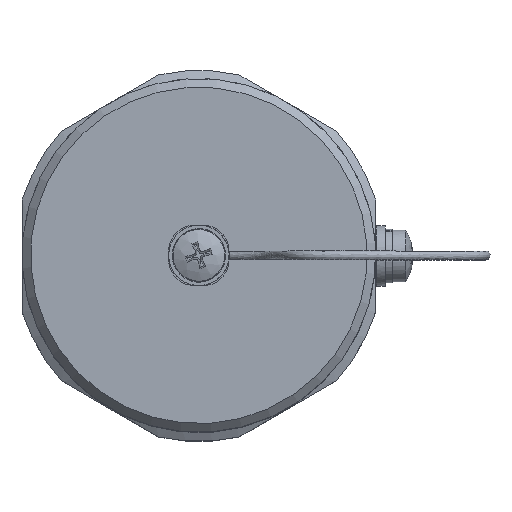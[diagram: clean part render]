
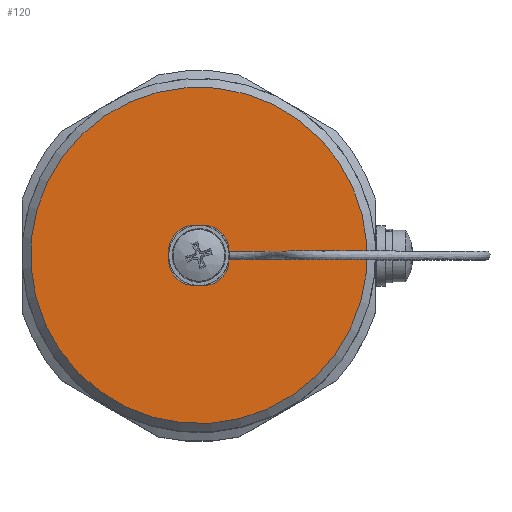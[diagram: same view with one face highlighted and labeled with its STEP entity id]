
A CAD part, top view. The second image highlights one B-rep face of the part: STEP entity #120.
In plain terms, the highlighted planar face has unit normal (0, 0, 1).
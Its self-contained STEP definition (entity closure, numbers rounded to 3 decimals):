
#48 = CARTESIAN_POINT ( 'NONE',  ( 0., 0., 43. ) ) ;
#63 = DIRECTION ( 'NONE',  ( 0., 0., 1. ) ) ;
#120 = ADVANCED_FACE ( 'NONE', ( #4910, #3878 ), #4182, .T. ) ;
#158 = LINE ( 'NONE', #1160, #3739 ) ;
#159 = CARTESIAN_POINT ( 'NONE',  ( -0.5, -0.5, 43. ) ) ;
#219 = CARTESIAN_POINT ( 'NONE',  ( 3.5, 0.5, 43. ) ) ;
#238 = VERTEX_POINT ( 'NONE', #2337 ) ;
#263 = AXIS2_PLACEMENT_3D ( 'NONE', #2252, #4239, #1474 ) ;
#267 = CARTESIAN_POINT ( 'NONE',  ( 0.5, -3.5, 43. ) ) ;
#280 = ORIENTED_EDGE ( 'NONE', *, *, #3254, .T. ) ;
#350 = DIRECTION ( 'NONE',  ( 0., 1., 0. ) ) ;
#373 = B_SPLINE_CURVE_WITH_KNOTS ( 'NONE', 3,
 ( #3767, #3782, #4208, #1067, #4986, #5003, #4964, #2203, #1825, #3838, #3360, #1437, #1860, #1408, #1480, #4145, #2253, #219 ),
 .UNSPECIFIED., .F., .F.,
 ( 4, 2, 2, 2, 2, 2, 2, 2, 4 ),
 ( 0., 0., 0.001, 0.001, 0.001, 0.001, 0.002, 0.002, 0.002 ),
 .UNSPECIFIED. ) ;
#601 = EDGE_CURVE ( 'NONE', #3549, #3258, #158, .T. ) ;
#612 = CIRCLE ( 'NONE', #4428, 3. ) ;
#666 = EDGE_CURVE ( 'NONE', #238, #3258, #4955, .T. ) ;
#679 = AXIS2_PLACEMENT_3D ( 'NONE', #159, #3365, #3342 ) ;
#746 = CARTESIAN_POINT ( 'NONE',  ( -3.5, -0.5, 43. ) ) ;
#758 = ORIENTED_EDGE ( 'NONE', *, *, #1744, .F. ) ;
#787 = VECTOR ( 'NONE', #1299, 1000. ) ;
#823 = DIRECTION ( 'NONE',  ( 0., 0., -1. ) ) ;
#1026 = ORIENTED_EDGE ( 'NONE', *, *, #4844, .F. ) ;
#1067 = CARTESIAN_POINT ( 'NONE',  ( 3.847, -0.456, 43. ) ) ;
#1121 = CARTESIAN_POINT ( 'NONE',  ( 3.5, -0.5, 43. ) ) ;
#1160 = CARTESIAN_POINT ( 'NONE',  ( -3.5, 0., 43. ) ) ;
#1222 = CARTESIAN_POINT ( 'NONE',  ( 0.5, 0.5, 43. ) ) ;
#1299 = DIRECTION ( 'NONE',  ( -1., 0., 0. ) ) ;
#1408 = CARTESIAN_POINT ( 'NONE',  ( 3.933, 0.428, 43. ) ) ;
#1437 = CARTESIAN_POINT ( 'NONE',  ( 4.167, 0.303, 43. ) ) ;
#1474 = DIRECTION ( 'NONE',  ( 0.438, 0.899, 0. ) ) ;
#1480 = CARTESIAN_POINT ( 'NONE',  ( 3.848, 0.455, 43. ) ) ;
#1550 = CIRCLE ( 'NONE', #3377, 19.5 ) ;
#1555 = CARTESIAN_POINT ( 'NONE',  ( 0.5, 3.5, 43. ) ) ;
#1583 = EDGE_CURVE ( 'NONE', #2197, #3467, #612, .T. ) ;
#1636 = LINE ( 'NONE', #4836, #787 ) ;
#1666 = CARTESIAN_POINT ( 'NONE',  ( -3.5, 3.5, 43. ) ) ;
#1718 = EDGE_LOOP ( 'NONE', ( #2349, #4298, #758, #280, #3504, #3125, #4275, #4156 ) ) ;
#1744 = EDGE_CURVE ( 'NONE', #3441, #2075, #1748, .T. ) ;
#1748 = CIRCLE ( 'NONE', #2040, 3. ) ;
#1825 = CARTESIAN_POINT ( 'NONE',  ( 4.331, -0.09, 43. ) ) ;
#1852 = EDGE_CURVE ( 'NONE', #3549, #4488, #2057, .T. ) ;
#1860 = CARTESIAN_POINT ( 'NONE',  ( 4.091, 0.352, 43. ) ) ;
#1896 = VERTEX_POINT ( 'NONE', #3430 ) ;
#2028 = DIRECTION ( 'NONE',  ( 0.707, 0.707, 0. ) ) ;
#2040 = AXIS2_PLACEMENT_3D ( 'NONE', #3666, #4865, #3635 ) ;
#2057 = CIRCLE ( 'NONE', #679, 3. ) ;
#2075 = VERTEX_POINT ( 'NONE', #1121 ) ;
#2197 = VERTEX_POINT ( 'NONE', #3772 ) ;
#2203 = CARTESIAN_POINT ( 'NONE',  ( 4.287, -0.173, 43. ) ) ;
#2252 = CARTESIAN_POINT ( 'NONE',  ( 0., 0., 43. ) ) ;
#2253 = CARTESIAN_POINT ( 'NONE',  ( 3.589, 0.5, 43. ) ) ;
#2337 = CARTESIAN_POINT ( 'NONE',  ( -0.5, 3.5, 43. ) ) ;
#2349 = ORIENTED_EDGE ( 'NONE', *, *, #1583, .F. ) ;
#2713 = DIRECTION ( 'NONE',  ( 0., 0., 1. ) ) ;
#2729 = EDGE_LOOP ( 'NONE', ( #1026 ) ) ;
#2812 = DIRECTION ( 'NONE',  ( 0.438, 0.899, 0. ) ) ;
#3039 = EDGE_CURVE ( 'NONE', #2075, #2197, #373, .T. ) ;
#3125 = ORIENTED_EDGE ( 'NONE', *, *, #601, .T. ) ;
#3148 = DIRECTION ( 'NONE',  ( -0.707, 0.707, 0. ) ) ;
#3254 = EDGE_CURVE ( 'NONE', #3441, #4488, #1636, .T. ) ;
#3258 = VERTEX_POINT ( 'NONE', #3674 ) ;
#3264 = EDGE_CURVE ( 'NONE', #238, #3467, #4816, .T. ) ;
#3342 = DIRECTION ( 'NONE',  ( -0.707, -0.707, 0. ) ) ;
#3360 = CARTESIAN_POINT ( 'NONE',  ( 4.287, 0.173, 43. ) ) ;
#3365 = DIRECTION ( 'NONE',  ( 0., 0., 1. ) ) ;
#3377 = AXIS2_PLACEMENT_3D ( 'NONE', #48, #823, #2812 ) ;
#3430 = CARTESIAN_POINT ( 'NONE',  ( 8.536, 17.532, 43. ) ) ;
#3441 = VERTEX_POINT ( 'NONE', #267 ) ;
#3467 = VERTEX_POINT ( 'NONE', #1555 ) ;
#3504 = ORIENTED_EDGE ( 'NONE', *, *, #1852, .F. ) ;
#3515 = AXIS2_PLACEMENT_3D ( 'NONE', #4599, #2713, #3148 ) ;
#3549 = VERTEX_POINT ( 'NONE', #746 ) ;
#3635 = DIRECTION ( 'NONE',  ( 0.707, -0.707, 0. ) ) ;
#3666 = CARTESIAN_POINT ( 'NONE',  ( 0.5, -0.5, 43. ) ) ;
#3674 = CARTESIAN_POINT ( 'NONE',  ( -3.5, 0.5, 43. ) ) ;
#3739 = VECTOR ( 'NONE', #350, 1000. ) ;
#3767 = CARTESIAN_POINT ( 'NONE',  ( 3.5, -0.5, 43. ) ) ;
#3772 = CARTESIAN_POINT ( 'NONE',  ( 3.5, 0.5, 43. ) ) ;
#3782 = CARTESIAN_POINT ( 'NONE',  ( 3.589, -0.5, 43. ) ) ;
#3838 = CARTESIAN_POINT ( 'NONE',  ( 4.331, 0.09, 43. ) ) ;
#3878 = FACE_OUTER_BOUND ( 'NONE', #2729, .T. ) ;
#4024 = DIRECTION ( 'NONE',  ( 1., 0., 0. ) ) ;
#4145 = CARTESIAN_POINT ( 'NONE',  ( 3.676, 0.491, 43. ) ) ;
#4156 = ORIENTED_EDGE ( 'NONE', *, *, #3264, .T. ) ;
#4182 = PLANE ( 'NONE',  #263 ) ;
#4208 = CARTESIAN_POINT ( 'NONE',  ( 3.676, -0.491, 43. ) ) ;
#4239 = DIRECTION ( 'NONE',  ( 0., 0., 1. ) ) ;
#4275 = ORIENTED_EDGE ( 'NONE', *, *, #666, .F. ) ;
#4298 = ORIENTED_EDGE ( 'NONE', *, *, #3039, .F. ) ;
#4428 = AXIS2_PLACEMENT_3D ( 'NONE', #1222, #63, #2028 ) ;
#4488 = VERTEX_POINT ( 'NONE', #4718 ) ;
#4599 = CARTESIAN_POINT ( 'NONE',  ( -0.5, 0.5, 43. ) ) ;
#4718 = CARTESIAN_POINT ( 'NONE',  ( -0.5, -3.5, 43. ) ) ;
#4762 = VECTOR ( 'NONE', #4024, 1000. ) ;
#4816 = LINE ( 'NONE', #1666, #4762 ) ;
#4836 = CARTESIAN_POINT ( 'NONE',  ( -3.5, -3.5, 43. ) ) ;
#4844 = EDGE_CURVE ( 'NONE', #1896, #1896, #1550, .T. ) ;
#4865 = DIRECTION ( 'NONE',  ( 0., 0., 1. ) ) ;
#4910 = FACE_BOUND ( 'NONE', #1718, .T. ) ;
#4955 = CIRCLE ( 'NONE', #3515, 3. ) ;
#4964 = CARTESIAN_POINT ( 'NONE',  ( 4.167, -0.303, 43. ) ) ;
#4986 = CARTESIAN_POINT ( 'NONE',  ( 3.932, -0.428, 43. ) ) ;
#5003 = CARTESIAN_POINT ( 'NONE',  ( 4.091, -0.352, 43. ) ) ;
